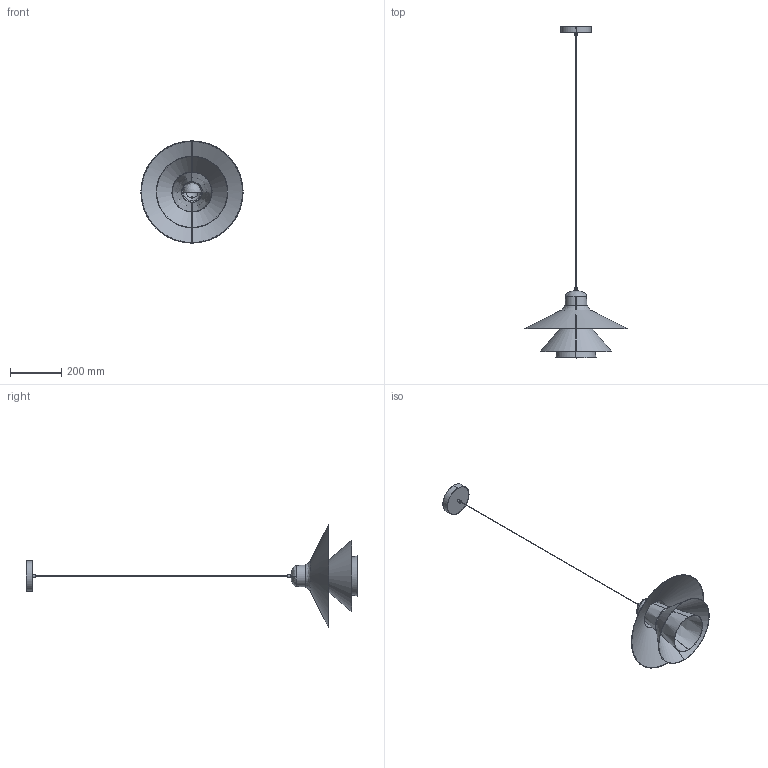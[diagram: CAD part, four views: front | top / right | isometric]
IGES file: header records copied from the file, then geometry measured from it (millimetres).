
Start section: SolidWorks IGES file using analytic representation for surfaces
Global section: file name: F:\燠隴矨\3D\2024-8堎\Ikono Pendant lamp-D40CM.IGS; native system: SolidWorks 2022; preprocessor: SolidWorks 2022; author: MyPC; date: 240807.101014; units: millimetre
Bounding box: 400 x 1300.24 x 400 mm (x, y, z)
Surface area: 701246.7 mm2 (no closed solid volume)
Topology: 0 solids, 0 shells, 77 faces, 1564 edges, 1559 vertices
Faces by surface type: revolution 40, bspline 37
